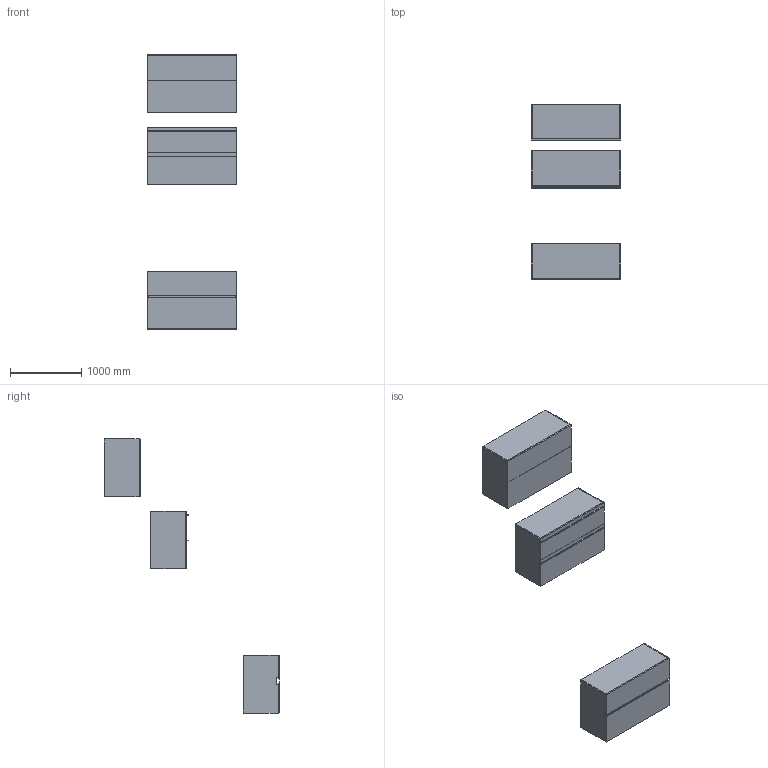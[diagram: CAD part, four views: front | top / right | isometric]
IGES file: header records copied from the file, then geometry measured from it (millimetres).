
Start section: Data from Parasolid IGES Translator 19.0.9, Copyright(c) 2006 Siemens PL M Software. All Rights Reserved.
Global section: file name: noorth-SI-H 81,2 D 51 W 126_9733.igs; native system: By Siemens PLM Incorporated; preprocessor: XPlus GENERIC/IGES 19.0.9; author: Noname; organization: Noname; date: 20200601.142517; units: metre
Bounding box: 1260 x 2458 x 3842 mm (x, y, z)
Volume: 161479097.9 mm3; surface area: 25126187.5 mm2
Topology: 24 solids, 24 shells, 248 faces, 544 edges, 324 vertices
Faces by surface type: plane 164, extrusion 36, bspline 32, cylinder 16
